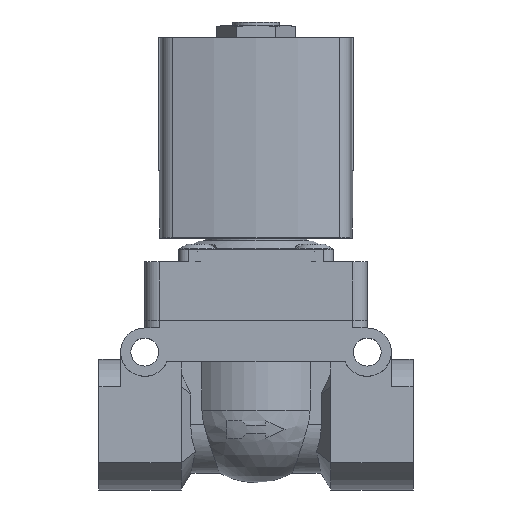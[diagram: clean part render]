
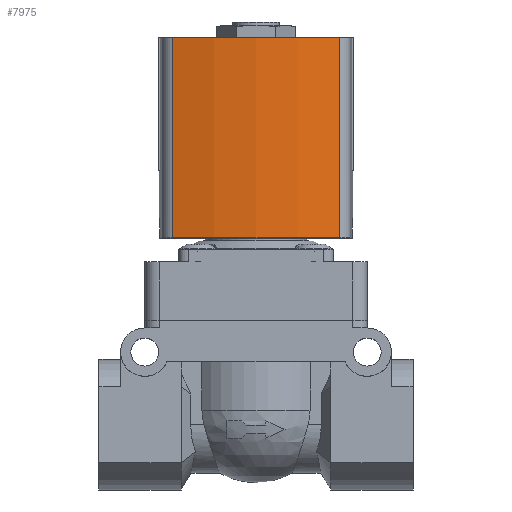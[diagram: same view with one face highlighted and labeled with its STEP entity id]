
A CAD part, top view. The second image highlights one B-rep face of the part: STEP entity #7975.
In plain terms, the highlighted cylindrical face has radius 60 mm (diameter 120 mm), a partial arc.
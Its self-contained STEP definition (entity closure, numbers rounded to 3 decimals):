
#111=CYLINDRICAL_SURFACE('',#10728,60.);
#919=LINE('',#15301,#1777);
#920=LINE('',#15305,#1778);
#1777=VECTOR('',#12715,1000.);
#1778=VECTOR('',#12720,1000.);
#3514=ORIENTED_EDGE('',*,*,#5217,.T.);
#3515=ORIENTED_EDGE('',*,*,#5218,.F.);
#3516=ORIENTED_EDGE('',*,*,#4503,.F.);
#3517=ORIENTED_EDGE('',*,*,#5216,.T.);
#4503=EDGE_CURVE('',#5563,#5564,#6269,.T.);
#5216=EDGE_CURVE('',#5563,#6069,#919,.T.);
#5217=EDGE_CURVE('',#6069,#6070,#6363,.T.);
#5218=EDGE_CURVE('',#5564,#6070,#920,.T.);
#5563=VERTEX_POINT('',#13955);
#5564=VERTEX_POINT('',#13957);
#6069=VERTEX_POINT('',#15300);
#6070=VERTEX_POINT('',#15304);
#6269=CIRCLE('',#10508,60.);
#6363=CIRCLE('',#10729,60.);
#6696=EDGE_LOOP('',(#3514,#3515,#3516,#3517));
#7184=FACE_BOUND('',#6696,.T.);
#7975=ADVANCED_FACE('',(#7184),#111,.T.);
#10508=AXIS2_PLACEMENT_3D('',#13956,#11656,#11657);
#10728=AXIS2_PLACEMENT_3D('',#15302,#12716,#12717);
#10729=AXIS2_PLACEMENT_3D('',#15303,#12718,#12719);
#11656=DIRECTION('',(0.,1.,0.));
#11657=DIRECTION('',(1.,0.,0.));
#12715=DIRECTION('',(0.,-1.,0.));
#12716=DIRECTION('',(0.,-1.,0.));
#12717=DIRECTION('',(0.,0.,-1.));
#12718=DIRECTION('',(0.,1.,0.));
#12719=DIRECTION('',(1.,0.,0.));
#12720=DIRECTION('',(0.,-1.,0.));
#13955=CARTESIAN_POINT('',(20.947,15.5,17.315));
#13956=CARTESIAN_POINT('',(-36.5,15.5,0.));
#13957=CARTESIAN_POINT('',(20.947,15.5,-17.315));
#15300=CARTESIAN_POINT('',(20.947,-25.9,17.315));
#15301=CARTESIAN_POINT('',(20.947,15.5,17.315));
#15302=CARTESIAN_POINT('',(-36.5,15.5,0.));
#15303=CARTESIAN_POINT('',(-36.5,-25.9,0.));
#15304=CARTESIAN_POINT('',(20.947,-25.9,-17.315));
#15305=CARTESIAN_POINT('',(20.947,15.5,-17.315));
